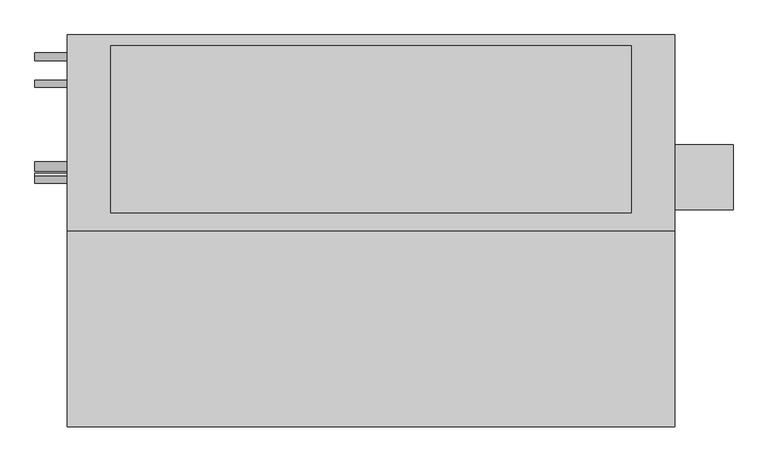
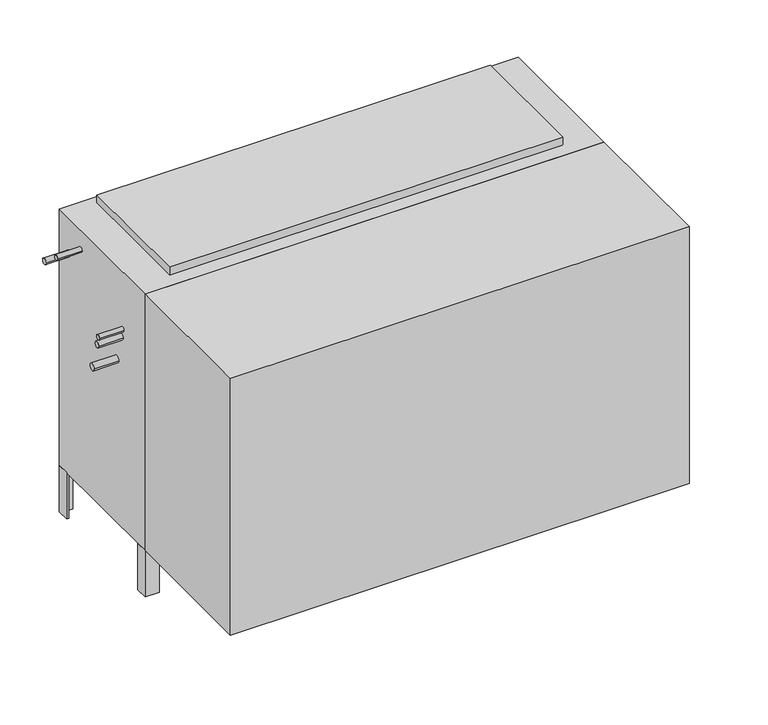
"""IFC4 building model written with IfcOpenShell, lengths in millimetres: proxy geometry, Concealed_High_Capacity_Vertical_Fan_Coil_Unit_-_VEY_-_IEC_-_4-Pipe_LH_2022 : Size 20 - 277v/60Hz/1Ph - 4/2 Coil."""

from ifc_helpers import new_model, si_unit, point, frame, frame_2d, origin, origin_with_axes, place, context, project, spatial, polyline, circle_curve, trimmed, segment, composite_curve, outline, extrude, source, transform, mapped, element, save


def mechanical_equipment_db1e9333(model_context):
    return source(origin(), model_context, "Body", "SweptSolid", [
        extrude(outline(polyline([(698.9230703, 747.7868862), (688.975, 779.9602728), (831.1459244, 779.9602728), (808.1239183, 747.7868862), (698.9230703, 747.7868862)])), frame((0.0, -471.4875, 0.0), z_axis=(0.0, 1.0, 0.0), x_axis=(0.0, 0.0, 1.0)), (0.0, 0.0, 1.0), 3.175),
        extrude(outline(polyline([(777.9223557, 786.7186058), (774.7199632, 812.8), (803.9488042, 812.8), (812.0132193, 786.7186058), (777.9223557, 786.7186058)])), frame((0.0, -471.4875, 0.0), z_axis=(0.0, 1.0, 0.0), x_axis=(0.0, 0.0, 1.0)), (0.0, 0.0, 1.0), 3.175),
        extrude(outline(polyline([(726.0588288, 812.8), (722.3933279, 786.7186058), (688.975, 786.7186058), (697.6092372, 812.8), (726.0588288, 812.8)])), frame((0.0, -471.4875, 0.0), z_axis=(0.0, 1.0, 0.0), x_axis=(0.0, 0.0, 1.0)), (0.0, 0.0, 1.0), 3.175),
        extrude(outline(polyline([(765.3739903, 812.8), (767.6558166, 786.7186058), (731.7182681, 786.7186058), (734.4595331, 812.8), (765.3739903, 812.8)])), frame((0.0, -471.4875, 0.0), z_axis=(0.0, 1.0, 0.0), x_axis=(0.0, 0.0, 1.0)), (0.0, 0.0, 1.0), 3.175),
        extrude(outline(polyline([(863.6, -925.5125), (-558.8, -925.5125), (-558.8, -468.3125), (863.6, -468.3125), (863.6, -925.5125)])), origin_with_axes(), (0.0, 0.0, 1.0), 841.375),
        extrude(outline(polyline([(1000.125, -265.1125), (1000.125, -417.5125), (863.6, -417.5125), (863.6, -265.1125), (1000.125, -265.1125)])), frame((0.0, 0.0, 101.6), z_axis=(0.0, 0.0, 1.0), x_axis=(1.0, 0.0, 0.0)), (0.0, 0.0, 1.0), 152.4),
        extrude(outline(polyline([(863.6, -46.0375), (857.25, -46.0375), (857.25, -14.2875), (825.5, -14.2875), (825.5, -7.9375), (863.6, -7.9375), (863.6, -46.0375)])), frame((0.0, 0.0, -152.4), z_axis=(0.0, 0.0, 1.0), x_axis=(1.0, 0.0, 0.0)), (0.0, 0.0, 1.0), 152.4),
        extrude(outline(polyline([(-520.7, -7.9375), (-520.7, -14.2875), (-552.45, -14.2875), (-552.45, -46.0375), (-558.8, -46.0375), (-558.8, -7.9375), (-520.7, -7.9375)])), frame((0.0, 0.0, -152.4), z_axis=(0.0, 0.0, 1.0), x_axis=(1.0, 0.0, 0.0)), (0.0, 0.0, 1.0), 152.4),
        extrude(outline(polyline([(825.5, -468.3125), (825.5, -461.9625), (857.25, -461.9625), (857.25, -430.2125), (863.6, -430.2125), (863.6, -468.3125), (825.5, -468.3125)])), frame((0.0, 0.0, -152.4), z_axis=(0.0, 0.0, 1.0), x_axis=(1.0, 0.0, 0.0)), (0.0, 0.0, 1.0), 152.4),
        extrude(outline(polyline([(-558.8, -428.1199163), (-552.45, -428.1199163), (-552.45, -461.9625), (-515.3318533, -461.9625), (-515.3318533, -468.3125), (-558.8, -468.3125), (-558.8, -428.1199163)])), frame((0.0, 0.0, -152.4), z_axis=(0.0, 0.0, 1.0), x_axis=(1.0, 0.0, 0.0)), (0.0, 0.0, 1.0), 152.4),
        extrude(outline(polyline([(762.0, -33.3375), (762.0, -423.8625), (-457.2, -423.8625), (-457.2, -33.3375), (762.0, -33.3375)])), frame((0.0, 0.0, 841.375), z_axis=(0.0, 0.0, 1.0), x_axis=(1.0, 0.0, 0.0)), (0.0, 0.0, 1.0), 25.4),
        extrude(outline(polyline([(838.2, -471.4875), (-533.4, -471.4875), (-533.4, -468.3125), (838.2, -468.3125), (838.2, -471.4875)])), frame((0.0, 0.0, 50.8), z_axis=(0.0, 0.0, 1.0), x_axis=(1.0, 0.0, 0.0)), (0.0, 0.0, 1.0), 304.8),
        extrude(outline(composite_curve([segment(trimmed(circle_curve(frame_2d((-122.2375, 777.875)), 7.9375), [point((-130.175, 777.875))], [point((-114.3, 777.875))], False, "CARTESIAN"), True, "CONTINUOUS"), segment(trimmed(circle_curve(frame_2d((-122.2375, 777.875)), 7.9375), [point((-114.3, 777.875))], [point((-130.175, 777.875))], False, "CARTESIAN"), True, "CONTINUOUS")], self_intersect=False)), frame((-635.0, 0.0, 0.0), z_axis=(1.0, 0.0, 0.0), x_axis=(0.0, 1.0, 0.0)), (0.0, 0.0, 1.0), 76.2),
        extrude(outline(composite_curve([segment(trimmed(circle_curve(frame_2d((-347.3848135, 653.2230057)), 7.9375), [point((-355.3223135, 653.2230057))], [point((-339.4473135, 653.2230057))], False, "CARTESIAN"), True, "CONTINUOUS"), segment(trimmed(circle_curve(frame_2d((-347.3848135, 653.2230057)), 7.9375), [point((-339.4473135, 653.2230057))], [point((-355.3223135, 653.2230057))], False, "CARTESIAN"), True, "CONTINUOUS")], self_intersect=False)), frame((-635.0, 0.0, 0.0), z_axis=(1.0, 0.0, 0.0), x_axis=(0.0, 1.0, 0.0)), (0.0, 0.0, 1.0), 76.2),
        extrude(outline(composite_curve([segment(trimmed(circle_curve(frame_2d((-58.7375, 727.075)), 9.525), [point((-68.2625, 727.075))], [point((-49.2125, 727.075))], False, "CARTESIAN"), True, "CONTINUOUS"), segment(trimmed(circle_curve(frame_2d((-58.7375, 727.075)), 9.525), [point((-49.2125, 727.075))], [point((-68.2625, 727.075))], False, "CARTESIAN"), True, "CONTINUOUS")], self_intersect=False)), frame((-635.0, 0.0, 0.0), z_axis=(1.0, 0.0, 0.0), x_axis=(0.0, 1.0, 0.0)), (0.0, 0.0, 1.0), 76.2),
        extrude(outline(composite_curve([segment(trimmed(circle_curve(frame_2d((-341.3125, 625.475)), 9.525), [point((-350.8375, 625.475))], [point((-331.7875, 625.475))], False, "CARTESIAN"), True, "CONTINUOUS"), segment(trimmed(circle_curve(frame_2d((-341.3125, 625.475)), 9.525), [point((-331.7875, 625.475))], [point((-350.8375, 625.475))], False, "CARTESIAN"), True, "CONTINUOUS")], self_intersect=False)), frame((-635.0, 0.0, 0.0), z_axis=(1.0, 0.0, 0.0), x_axis=(0.0, 1.0, 0.0)), (0.0, 0.0, 1.0), 76.2),
        extrude(outline(composite_curve([segment(trimmed(circle_curve(frame_2d((-315.9125, 536.575)), 11.1125), [point((-327.025, 536.575))], [point((-304.8, 536.575))], False, "CARTESIAN"), True, "CONTINUOUS"), segment(trimmed(circle_curve(frame_2d((-315.9125, 536.575)), 11.1125), [point((-304.8, 536.575))], [point((-327.025, 536.575))], False, "CARTESIAN"), True, "CONTINUOUS")], self_intersect=False)), frame((-635.0, 0.0, 0.0), z_axis=(1.0, 0.0, 0.0), x_axis=(0.0, 1.0, 0.0)), (0.0, 0.0, 1.0), 76.2),
        extrude(outline(polyline([(863.6, -7.9375), (863.6, -468.3125), (-558.8, -468.3125), (-558.8, -7.9375), (863.6, -7.9375)])), origin_with_axes(), (0.0, 0.0, 1.0), 841.375),
    ])


if __name__ == "__main__":
    model = new_model("IFC4")
    model_context = context("Model", 3, world=origin())
    ifc_project = project(units=[si_unit("LENGTHUNIT", "METRE", prefix="MILLI")], contexts=[model_context])
    site = spatial("IfcSite", under=ifc_project)
    building = spatial("IfcBuilding", under=site)
    placement = place(None, origin())
    mechanical_equipment_shape = mechanical_equipment_db1e9333(model_context)
    element("IfcBuildingElementProxy", 1, Name="Concealed_High_Capacity_Vertical_Fan_Coil_Unit_-_VEY_-_IEC_-_4-Pipe_LH_2022 : Size 20 - 277v/60Hz/1Ph - 4/2 Coil", ObjectType="Concealed_High_Capacity_Vertical_Fan_Coil_Unit_-_VEY_-_IEC_-_4-Pipe_LH_2022 : Size 20 - 277v/60Hz/1Ph - 4/2 Coil", at=placement, inside=building, context=model_context, shape_type="MappedRepresentation", body=[
        mapped(mechanical_equipment_shape, transform((0.0, 0.0, 0.0), x_axis=(1.0, 0.0, 0.0), y_axis=(0.0, 1.0, 0.0), z_axis=(0.0, 0.0, 1.0))),
    ])
    save(model, "model.ifc")
